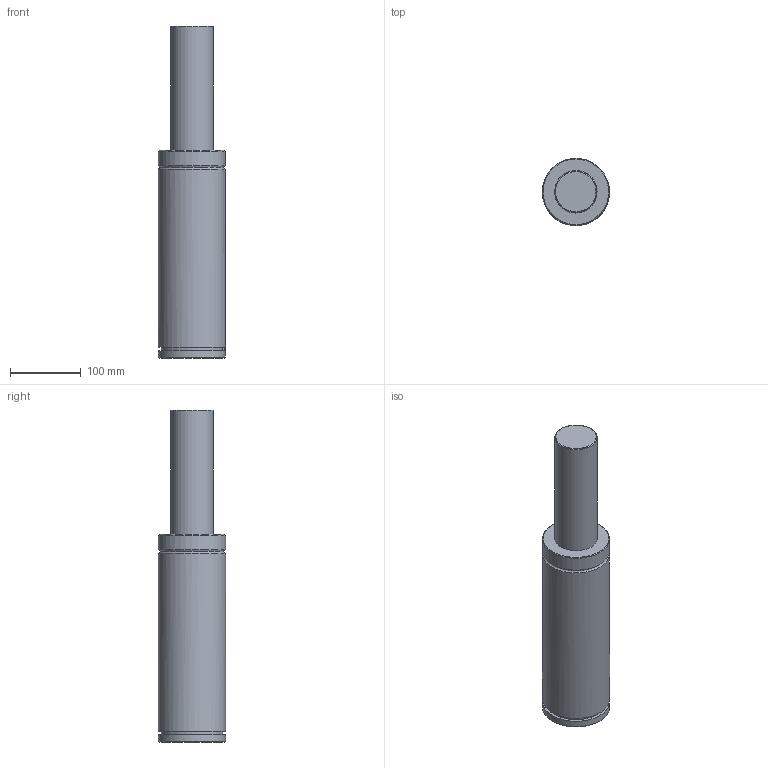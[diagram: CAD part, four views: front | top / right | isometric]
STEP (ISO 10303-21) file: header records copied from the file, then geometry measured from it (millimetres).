
FILE_DESCRIPTION(('FreeCAD Model'),'2;1');
FILE_NAME('Open CASCADE Shape Model','2024-11-12T17:12:31',('Author'),( ''),'Open CASCADE STEP processor 7.6','FreeCAD','Unknown');
FILE_SCHEMA(('AUTOMOTIVE_DESIGN { 1 0 10303 214 1 1 1 1 }'));
Length unit declared in the file: millimetre
Products named in the file (8): Unnamed; Part003; Tapon G019; Part009; Cut002; Part010; Fillet
Assembly tree (7 placements, depth 4):
  Unnamed
    Unnamed
      Part003
        Tapon G019
    Part009
      Cut002
    Part010
      Fillet
Bounding box: 95.36 x 95 x 470 mm (x, y, z)
Volume: 2572115.3 mm3; surface area: 144479.9 mm2
Topology: 3 solids, 3 shells, 92 faces, 187 edges, 104 vertices
Faces by surface type: cone 33, torus 29, plane 18, cylinder 12
Full cylindrical faces by diameter (mm): 16 x1, 60 x1, 95 x3
Entity records: 2662 total; most frequent: CARTESIAN_POINT 529, DIRECTION 486, ORIENTED_EDGE 374, AXIS2_PLACEMENT_3D 213, EDGE_CURVE 187, CIRCLE 113, VERTEX_POINT 104, FACE_BOUND 95
